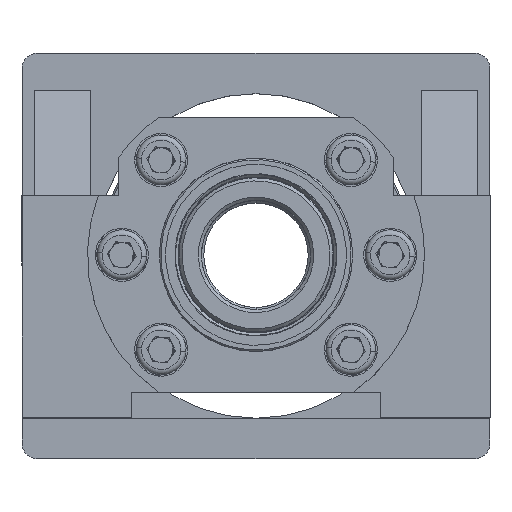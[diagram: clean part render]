
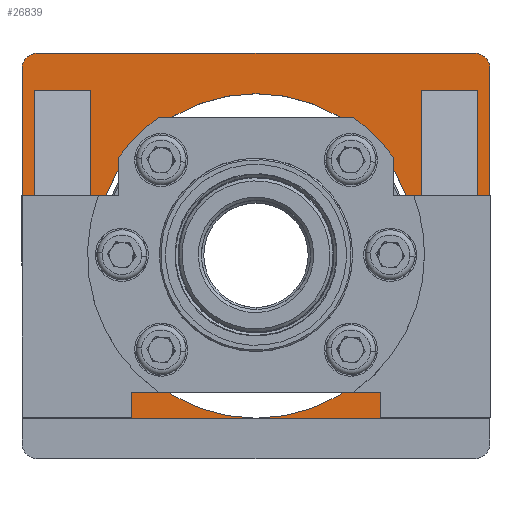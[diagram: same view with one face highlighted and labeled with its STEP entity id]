
A CAD part, top view. The second image highlights one B-rep face of the part: STEP entity #26839.
In plain terms, the highlighted planar face has unit normal (0, 0, 1).
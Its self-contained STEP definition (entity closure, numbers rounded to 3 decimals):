
#11 = ORIENTED_EDGE ( 'NONE', *, *, #25905, .T. ) ;
#88 = VERTEX_POINT ( 'NONE', #25587 ) ;
#124 = EDGE_LOOP ( 'NONE', ( #10408, #7371 ) ) ;
#262 = DIRECTION ( 'NONE',  ( 1., 0., 0. ) ) ;
#326 = VERTEX_POINT ( 'NONE', #15437 ) ;
#346 = EDGE_CURVE ( 'NONE', #10131, #88, #17816, .T. ) ;
#481 = DIRECTION ( 'NONE',  ( 0., -1., 0. ) ) ;
#511 = ORIENTED_EDGE ( 'NONE', *, *, #346, .F. ) ;
#549 = LINE ( 'NONE', #26829, #4159 ) ;
#866 = FACE_BOUND ( 'NONE', #7313, .T. ) ;
#905 = VERTEX_POINT ( 'NONE', #4047 ) ;
#1020 = VERTEX_POINT ( 'NONE', #14088 ) ;
#1605 = EDGE_LOOP ( 'NONE', ( #14581, #18843, #21977, #26911 ) ) ;
#1650 = CARTESIAN_POINT ( 'NONE',  ( -71., -52., 22. ) ) ;
#1725 = EDGE_CURVE ( 'NONE', #8395, #905, #25566, .T. ) ;
#1960 = DIRECTION ( 'NONE',  ( -1., 0., 0. ) ) ;
#1979 = DIRECTION ( 'NONE',  ( 0., 0., 1. ) ) ;
#2001 = VECTOR ( 'NONE', #21999, 1000. ) ;
#2098 = EDGE_CURVE ( 'NONE', #326, #8395, #5107, .T. ) ;
#2229 = DIRECTION ( 'NONE',  ( 0., 0., 1. ) ) ;
#2436 = AXIS2_PLACEMENT_3D ( 'NONE', #24596, #12160, #26659 ) ;
#2759 = CARTESIAN_POINT ( 'NONE',  ( 53., -52., 22. ) ) ;
#2772 = CARTESIAN_POINT ( 'NONE',  ( -75., -52.01, 22. ) ) ;
#3170 = VERTEX_POINT ( 'NONE', #7930 ) ;
#3769 = DIRECTION ( 'NONE',  ( 1., 0., 0. ) ) ;
#3822 = PLANE ( 'NONE',  #21983 ) ;
#3911 = DIRECTION ( 'NONE',  ( 0., 0., 1. ) ) ;
#3931 = CIRCLE ( 'NONE', #9388, 5. ) ;
#4047 = CARTESIAN_POINT ( 'NONE',  ( 70., 65., 22. ) ) ;
#4133 = VERTEX_POINT ( 'NONE', #20159 ) ;
#4159 = VECTOR ( 'NONE', #1960, 1000. ) ;
#4962 = ORIENTED_EDGE ( 'NONE', *, *, #9943, .T. ) ;
#5107 = LINE ( 'NONE', #15329, #26521 ) ;
#5109 = VECTOR ( 'NONE', #3769, 1000. ) ;
#5222 = CARTESIAN_POINT ( 'NONE',  ( 53., 17., 22. ) ) ;
#6233 = EDGE_LOOP ( 'NONE', ( #12324, #11, #19296, #6394, #4962, #16760 ) ) ;
#6394 = ORIENTED_EDGE ( 'NONE', *, *, #1725, .T. ) ;
#6503 = VERTEX_POINT ( 'NONE', #7827 ) ;
#6631 = EDGE_CURVE ( 'NONE', #12068, #1020, #9078, .T. ) ;
#7296 = DIRECTION ( 'NONE',  ( 0., 1., 0. ) ) ;
#7313 = EDGE_LOOP ( 'NONE', ( #16104, #20285, #19866, #511 ) ) ;
#7371 = ORIENTED_EDGE ( 'NONE', *, *, #18094, .F. ) ;
#7413 = VECTOR ( 'NONE', #19764, 1000. ) ;
#7524 = VECTOR ( 'NONE', #7296, 1000. ) ;
#7827 = CARTESIAN_POINT ( 'NONE',  ( 53., -52., 22. ) ) ;
#7930 = CARTESIAN_POINT ( 'NONE',  ( 53., 53., 22. ) ) ;
#8016 = DIRECTION ( 'NONE',  ( 0., -1., 0. ) ) ;
#8382 = LINE ( 'NONE', #25377, #14212 ) ;
#8395 = VERTEX_POINT ( 'NONE', #25945 ) ;
#8452 = VECTOR ( 'NONE', #8016, 1000. ) ;
#8511 = LINE ( 'NONE', #2759, #24414 ) ;
#9008 = CARTESIAN_POINT ( 'NONE',  ( 52., 0., 22. ) ) ;
#9078 = LINE ( 'NONE', #20348, #8452 ) ;
#9388 = AXIS2_PLACEMENT_3D ( 'NONE', #14445, #1979, #16524 ) ;
#9560 = CARTESIAN_POINT ( 'NONE',  ( -75., 53., 22. ) ) ;
#9743 = LINE ( 'NONE', #19649, #20791 ) ;
#9943 = EDGE_CURVE ( 'NONE', #905, #18086, #549, .T. ) ;
#10071 = CARTESIAN_POINT ( 'NONE',  ( -75., -65., 22. ) ) ;
#10131 = VERTEX_POINT ( 'NONE', #25206 ) ;
#10261 = EDGE_CURVE ( 'NONE', #16462, #21241, #8382, .T. ) ;
#10408 = ORIENTED_EDGE ( 'NONE', *, *, #25062, .F. ) ;
#10928 = EDGE_CURVE ( 'NONE', #1020, #10131, #21660, .T. ) ;
#11520 = CARTESIAN_POINT ( 'NONE',  ( -53., 17., 22. ) ) ;
#11614 = LINE ( 'NONE', #21009, #16504 ) ;
#11932 = FACE_OUTER_BOUND ( 'NONE', #6233, .T. ) ;
#12041 = DIRECTION ( 'NONE',  ( -1., 0., 0. ) ) ;
#12068 = VERTEX_POINT ( 'NONE', #22511 ) ;
#12160 = DIRECTION ( 'NONE',  ( 0., 0., 1. ) ) ;
#12324 = ORIENTED_EDGE ( 'NONE', *, *, #10261, .T. ) ;
#12408 = AXIS2_PLACEMENT_3D ( 'NONE', #25157, #12729, #262 ) ;
#12729 = DIRECTION ( 'NONE',  ( 0., 0., 1. ) ) ;
#13062 = LINE ( 'NONE', #9560, #2001 ) ;
#13065 = VECTOR ( 'NONE', #12041, 1000. ) ;
#13250 = AXIS2_PLACEMENT_3D ( 'NONE', #14698, #2229, #16774 ) ;
#13714 = LINE ( 'NONE', #5222, #7524 ) ;
#14088 = CARTESIAN_POINT ( 'NONE',  ( -71., -52., 22. ) ) ;
#14137 = CARTESIAN_POINT ( 'NONE',  ( -75., 53., 22. ) ) ;
#14212 = VECTOR ( 'NONE', #481, 1000. ) ;
#14386 = VERTEX_POINT ( 'NONE', #9008 ) ;
#14445 = CARTESIAN_POINT ( 'NONE',  ( -70., 60., 22. ) ) ;
#14581 = ORIENTED_EDGE ( 'NONE', *, *, #23649, .F. ) ;
#14698 = CARTESIAN_POINT ( 'NONE',  ( 70., 60., 22. ) ) ;
#15329 = CARTESIAN_POINT ( 'NONE',  ( 75., 65., 22. ) ) ;
#15434 = CARTESIAN_POINT ( 'NONE',  ( -52., 0., 22. ) ) ;
#15437 = CARTESIAN_POINT ( 'NONE',  ( 75., -52.01, 22. ) ) ;
#16104 = ORIENTED_EDGE ( 'NONE', *, *, #10928, .F. ) ;
#16135 = VERTEX_POINT ( 'NONE', #25751 ) ;
#16462 = VERTEX_POINT ( 'NONE', #24820 ) ;
#16504 = VECTOR ( 'NONE', #23112, 1000. ) ;
#16524 = DIRECTION ( 'NONE',  ( 1., 0., 0. ) ) ;
#16760 = ORIENTED_EDGE ( 'NONE', *, *, #25218, .T. ) ;
#16774 = DIRECTION ( 'NONE',  ( 1., 0., 0. ) ) ;
#16816 = CARTESIAN_POINT ( 'NONE',  ( -70., 65., 22. ) ) ;
#17405 = DIRECTION ( 'NONE',  ( 0., 1., 0. ) ) ;
#17816 = LINE ( 'NONE', #11520, #7413 ) ;
#18086 = VERTEX_POINT ( 'NONE', #16816 ) ;
#18094 = EDGE_CURVE ( 'NONE', #14386, #18464, #22208, .T. ) ;
#18428 = DIRECTION ( 'NONE',  ( 1., 0., 0. ) ) ;
#18464 = VERTEX_POINT ( 'NONE', #15434 ) ;
#18843 = ORIENTED_EDGE ( 'NONE', *, *, #21374, .T. ) ;
#19216 = LINE ( 'NONE', #14137, #13065 ) ;
#19296 = ORIENTED_EDGE ( 'NONE', *, *, #2098, .T. ) ;
#19649 = CARTESIAN_POINT ( 'NONE',  ( -76.047, -52.01, 22. ) ) ;
#19764 = DIRECTION ( 'NONE',  ( 0., 1., 0. ) ) ;
#19866 = ORIENTED_EDGE ( 'NONE', *, *, #23119, .F. ) ;
#20159 = CARTESIAN_POINT ( 'NONE',  ( 71., 53., 22. ) ) ;
#20285 = ORIENTED_EDGE ( 'NONE', *, *, #6631, .F. ) ;
#20348 = CARTESIAN_POINT ( 'NONE',  ( -71., 17., 22. ) ) ;
#20791 = VECTOR ( 'NONE', #21743, 1000. ) ;
#21009 = CARTESIAN_POINT ( 'NONE',  ( 71., 17., 22. ) ) ;
#21124 = CIRCLE ( 'NONE', #2436, 52. ) ;
#21241 = VERTEX_POINT ( 'NONE', #2772 ) ;
#21374 = EDGE_CURVE ( 'NONE', #6503, #3170, #13714, .T. ) ;
#21490 = EDGE_CURVE ( 'NONE', #4133, #3170, #13062, .T. ) ;
#21660 = LINE ( 'NONE', #1650, #5109 ) ;
#21743 = DIRECTION ( 'NONE',  ( 1., 0., 0. ) ) ;
#21977 = ORIENTED_EDGE ( 'NONE', *, *, #21490, .F. ) ;
#21983 = AXIS2_PLACEMENT_3D ( 'NONE', #10071, #3911, #18428 ) ;
#21999 = DIRECTION ( 'NONE',  ( -1., 0., 0. ) ) ;
#22208 = CIRCLE ( 'NONE', #12408, 52. ) ;
#22321 = FACE_BOUND ( 'NONE', #1605, .T. ) ;
#22511 = CARTESIAN_POINT ( 'NONE',  ( -71., 53., 22. ) ) ;
#22986 = FACE_BOUND ( 'NONE', #124, .T. ) ;
#23112 = DIRECTION ( 'NONE',  ( 0., -1., 0. ) ) ;
#23119 = EDGE_CURVE ( 'NONE', #88, #12068, #19216, .T. ) ;
#23454 = DIRECTION ( 'NONE',  ( 1., 0., 0. ) ) ;
#23649 = EDGE_CURVE ( 'NONE', #6503, #16135, #8511, .T. ) ;
#24414 = VECTOR ( 'NONE', #23454, 1000. ) ;
#24596 = CARTESIAN_POINT ( 'NONE',  ( 0., 0., 22. ) ) ;
#24820 = CARTESIAN_POINT ( 'NONE',  ( -75., 60., 22. ) ) ;
#25062 = EDGE_CURVE ( 'NONE', #18464, #14386, #21124, .T. ) ;
#25157 = CARTESIAN_POINT ( 'NONE',  ( 0., 0., 22. ) ) ;
#25206 = CARTESIAN_POINT ( 'NONE',  ( -53., -52., 22. ) ) ;
#25218 = EDGE_CURVE ( 'NONE', #18086, #16462, #3931, .T. ) ;
#25377 = CARTESIAN_POINT ( 'NONE',  ( -75., 65., 22. ) ) ;
#25566 = CIRCLE ( 'NONE', #13250, 5. ) ;
#25587 = CARTESIAN_POINT ( 'NONE',  ( -53., 53., 22. ) ) ;
#25751 = CARTESIAN_POINT ( 'NONE',  ( 71., -52., 22. ) ) ;
#25905 = EDGE_CURVE ( 'NONE', #21241, #326, #9743, .T. ) ;
#25945 = CARTESIAN_POINT ( 'NONE',  ( 75., 60., 22. ) ) ;
#26267 = EDGE_CURVE ( 'NONE', #4133, #16135, #11614, .T. ) ;
#26521 = VECTOR ( 'NONE', #17405, 1000. ) ;
#26659 = DIRECTION ( 'NONE',  ( 1., 0., 0. ) ) ;
#26829 = CARTESIAN_POINT ( 'NONE',  ( -75., 65., 22. ) ) ;
#26839 = ADVANCED_FACE ( 'NONE', ( #22986, #11932, #866, #22321 ), #3822, .T. ) ;
#26911 = ORIENTED_EDGE ( 'NONE', *, *, #26267, .T. ) ;
